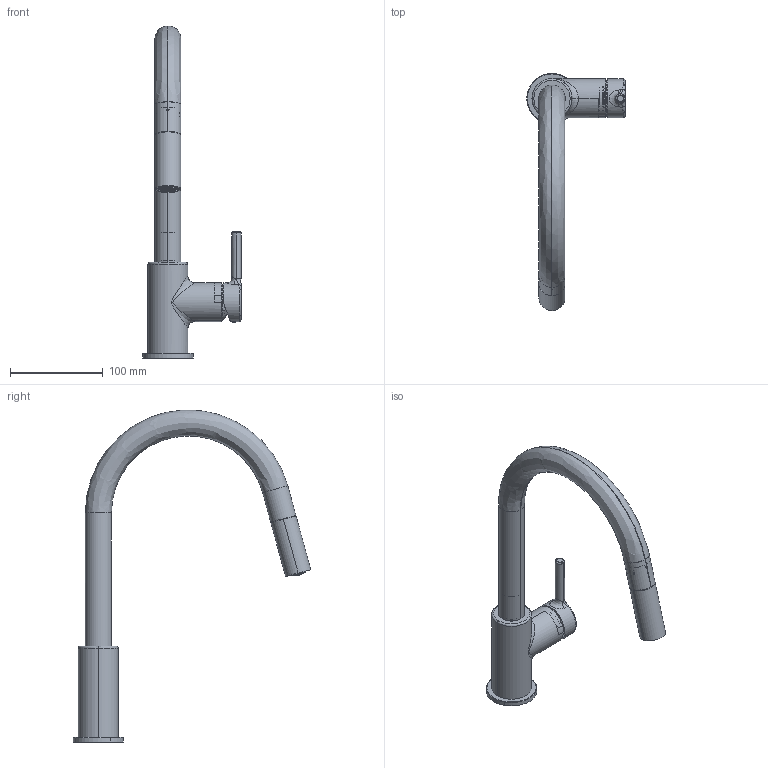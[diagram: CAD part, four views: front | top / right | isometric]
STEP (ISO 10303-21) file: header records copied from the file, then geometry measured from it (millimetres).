
FILE_DESCRIPTION(/* description */ (''),/* implementation_level */ '2;1');
FILE_NAME(/* name */ '3D001_Taps_Lina_J-Pull-Down-Nozzle',/* time_stamp */ '2026-08-06T14:42:04+02:00',/* author */ (''),/* organization */ (''),/* preprocessor_version */ 'ST-DEVELOPER v19.2',/* originating_system */ 'Rhino 8.31',/* authorisation */ '');
FILE_SCHEMA (('CONFIG_CONTROL_DESIGN'));
Products named in the file (10): Document; B39-6J0P005-20XXX; B26-FRANK-0032; B14-FRANKE; SHELL_9; B13-6B0B002-00DDA; B49-ASM0003-98DDA_ASM; B49-ASM0003-98DDA_1_AF0; B49-ASM0003-98DDA_2_AF0; B00-3033A01-15DDA
Bounding box: 105.67 x 255.38 x 357.17 mm (x, y, z)
Volume: 118665.4 mm3; surface area: 159996.1 mm2
Topology: 16 solids, 17 shells, 1938 faces, 5072 edges, 3215 vertices
Faces by surface type: plane 951, bspline 631, cylinder 356
Entity records: 114193 total; most frequent: CARTESIAN_POINT 75085, ORIENTED_EDGE 10071, EDGE_CURVE 5058, DIRECTION 3914, B_SPLINE_CURVE_WITH_KNOTS 3438, VERTEX_POINT 3215, AXIS2_PLACEMENT_3D 2605, EDGE_LOOP 2039
